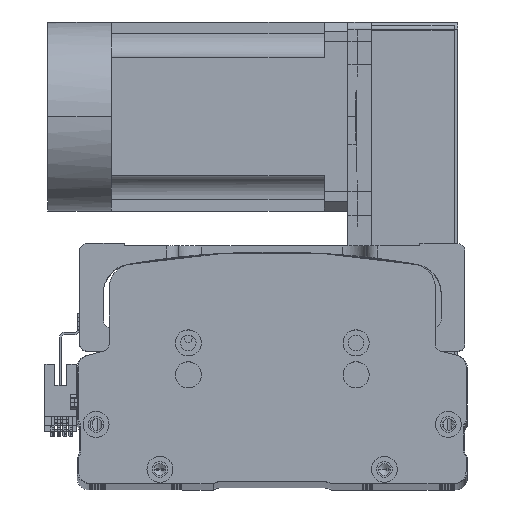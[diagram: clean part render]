
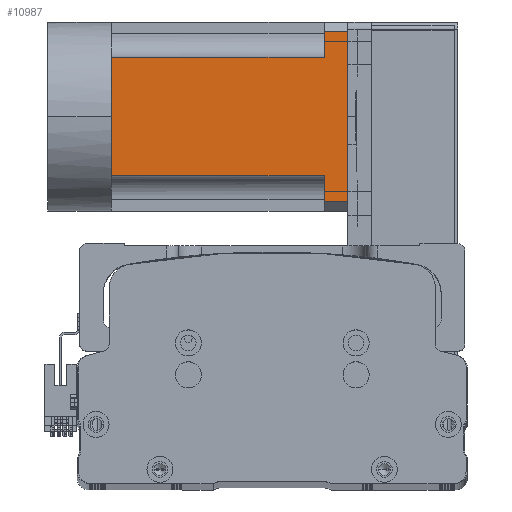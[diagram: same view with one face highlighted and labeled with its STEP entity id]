
A CAD part, top view. The second image highlights one B-rep face of the part: STEP entity #10987.
In plain terms, the highlighted planar face has unit normal (0, 0, 1) as drawn and (0, 0, -1) by its records, which use the part's own axes.
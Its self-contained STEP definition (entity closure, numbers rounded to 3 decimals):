
#715 = CARTESIAN_POINT ( 'NONE',  ( -40., 0., -40. ) ) ;
#908 = CARTESIAN_POINT ( 'NONE',  ( -36., -27., -40. ) ) ;
#1791 = VERTEX_POINT ( 'NONE', #57367 ) ;
#2288 = ORIENTED_EDGE ( 'NONE', *, *, #43099, .T. ) ;
#3534 = VECTOR ( 'NONE', #29520, 1000. ) ;
#4035 = CARTESIAN_POINT ( 'NONE',  ( 0., 0., -40. ) ) ;
#4526 = EDGE_CURVE ( 'NONE', #61111, #50276, #30116, .T. ) ;
#5444 = VERTEX_POINT ( 'NONE', #4035 ) ;
#7327 = ORIENTED_EDGE ( 'NONE', *, *, #29423, .T. ) ;
#8013 = PLANE ( 'NONE',  #40165 ) ;
#10987 = ADVANCED_FACE ( 'NONE', ( #19304 ), #8013, .T. ) ;
#12273 = ORIENTED_EDGE ( 'NONE', *, *, #13680, .T. ) ;
#12738 = ORIENTED_EDGE ( 'NONE', *, *, #66748, .F. ) ;
#13680 = EDGE_CURVE ( 'NONE', #1791, #47315, #41768, .T. ) ;
#13875 = CARTESIAN_POINT ( 'NONE',  ( -25., -27., -40. ) ) ;
#14600 = VERTEX_POINT ( 'NONE', #41886 ) ;
#15181 = DIRECTION ( 'NONE',  ( -1., 0., 0. ) ) ;
#15960 = DIRECTION ( 'NONE',  ( -1., 0., 0. ) ) ;
#16284 = VECTOR ( 'NONE', #28096, 1000. ) ;
#16344 = DIRECTION ( 'NONE',  ( -1., 0., 0. ) ) ;
#17076 = VERTEX_POINT ( 'NONE', #51043 ) ;
#17307 = EDGE_CURVE ( 'NONE', #64140, #14600, #52807, .T. ) ;
#17399 = CARTESIAN_POINT ( 'NONE',  ( 36., -27., -40. ) ) ;
#17555 = VECTOR ( 'NONE', #15960, 1000. ) ;
#19304 = FACE_OUTER_BOUND ( 'NONE', #33671, .T. ) ;
#21089 = EDGE_CURVE ( 'NONE', #5444, #39518, #66876, .T. ) ;
#21584 = DIRECTION ( 'NONE',  ( 0., 1., 0. ) ) ;
#24269 = CARTESIAN_POINT ( 'NONE',  ( -40., 90., -40. ) ) ;
#25171 = VECTOR ( 'NONE', #43295, 1000. ) ;
#27152 = ORIENTED_EDGE ( 'NONE', *, *, #49218, .T. ) ;
#27712 = VECTOR ( 'NONE', #15181, 1000. ) ;
#28096 = DIRECTION ( 'NONE',  ( -1., 0., 0. ) ) ;
#29423 = EDGE_CURVE ( 'NONE', #50276, #17076, #37094, .T. ) ;
#29520 = DIRECTION ( 'NONE',  ( -1., 0., 0. ) ) ;
#29756 = ORIENTED_EDGE ( 'NONE', *, *, #4526, .T. ) ;
#30116 = LINE ( 'NONE', #64359, #16284 ) ;
#31763 = VECTOR ( 'NONE', #34801, 1000. ) ;
#33671 = EDGE_LOOP ( 'NONE', ( #12738, #61217, #27152, #12273, #2288, #46397, #46957, #29756, #7327 ) ) ;
#34340 = DIRECTION ( 'NONE',  ( -1., 0., 0. ) ) ;
#34801 = DIRECTION ( 'NONE',  ( 0., 1., 0. ) ) ;
#37094 = LINE ( 'NONE', #908, #64615 ) ;
#37316 = CARTESIAN_POINT ( 'NONE',  ( 25., 0., -40. ) ) ;
#38456 = CARTESIAN_POINT ( 'NONE',  ( -36., 90., -40. ) ) ;
#39518 = VERTEX_POINT ( 'NONE', #59584 ) ;
#40165 = AXIS2_PLACEMENT_3D ( 'NONE', #54976, #65372, #34340 ) ;
#41768 = LINE ( 'NONE', #58127, #52300 ) ;
#41886 = CARTESIAN_POINT ( 'NONE',  ( 36., 90., -40. ) ) ;
#43099 = EDGE_CURVE ( 'NONE', #47315, #5444, #45208, .T. ) ;
#43295 = DIRECTION ( 'NONE',  ( 0., -1., 0. ) ) ;
#45023 = CARTESIAN_POINT ( 'NONE',  ( -25., 90., -40. ) ) ;
#45208 = LINE ( 'NONE', #62684, #17555 ) ;
#46271 = CARTESIAN_POINT ( 'NONE',  ( -40., 100., -40. ) ) ;
#46397 = ORIENTED_EDGE ( 'NONE', *, *, #21089, .T. ) ;
#46869 = CARTESIAN_POINT ( 'NONE',  ( 36., 100., -40. ) ) ;
#46957 = ORIENTED_EDGE ( 'NONE', *, *, #50418, .T. ) ;
#47315 = VERTEX_POINT ( 'NONE', #37316 ) ;
#48828 = LINE ( 'NONE', #13875, #31763 ) ;
#49218 = EDGE_CURVE ( 'NONE', #14600, #1791, #57078, .T. ) ;
#50276 = VERTEX_POINT ( 'NONE', #38456 ) ;
#50418 = EDGE_CURVE ( 'NONE', #39518, #61111, #48828, .T. ) ;
#51043 = CARTESIAN_POINT ( 'NONE',  ( -36., 100., -40. ) ) ;
#52300 = VECTOR ( 'NONE', #63272, 1000. ) ;
#52807 = LINE ( 'NONE', #17399, #25171 ) ;
#53094 = VECTOR ( 'NONE', #16344, 1000. ) ;
#54976 = CARTESIAN_POINT ( 'NONE',  ( -40., -27., -40. ) ) ;
#55329 = LINE ( 'NONE', #46271, #27712 ) ;
#57078 = LINE ( 'NONE', #24269, #3534 ) ;
#57367 = CARTESIAN_POINT ( 'NONE',  ( 25., 90., -40. ) ) ;
#58127 = CARTESIAN_POINT ( 'NONE',  ( 25., -27., -40. ) ) ;
#59584 = CARTESIAN_POINT ( 'NONE',  ( -25., 0., -40. ) ) ;
#61111 = VERTEX_POINT ( 'NONE', #45023 ) ;
#61217 = ORIENTED_EDGE ( 'NONE', *, *, #17307, .T. ) ;
#62684 = CARTESIAN_POINT ( 'NONE',  ( -40., 0., -40. ) ) ;
#63272 = DIRECTION ( 'NONE',  ( 0., -1., 0. ) ) ;
#64140 = VERTEX_POINT ( 'NONE', #46869 ) ;
#64359 = CARTESIAN_POINT ( 'NONE',  ( -40., 90., -40. ) ) ;
#64615 = VECTOR ( 'NONE', #21584, 1000. ) ;
#65372 = DIRECTION ( 'NONE',  ( 0., 0., -1. ) ) ;
#66748 = EDGE_CURVE ( 'NONE', #64140, #17076, #55329, .T. ) ;
#66876 = LINE ( 'NONE', #715, #53094 ) ;
